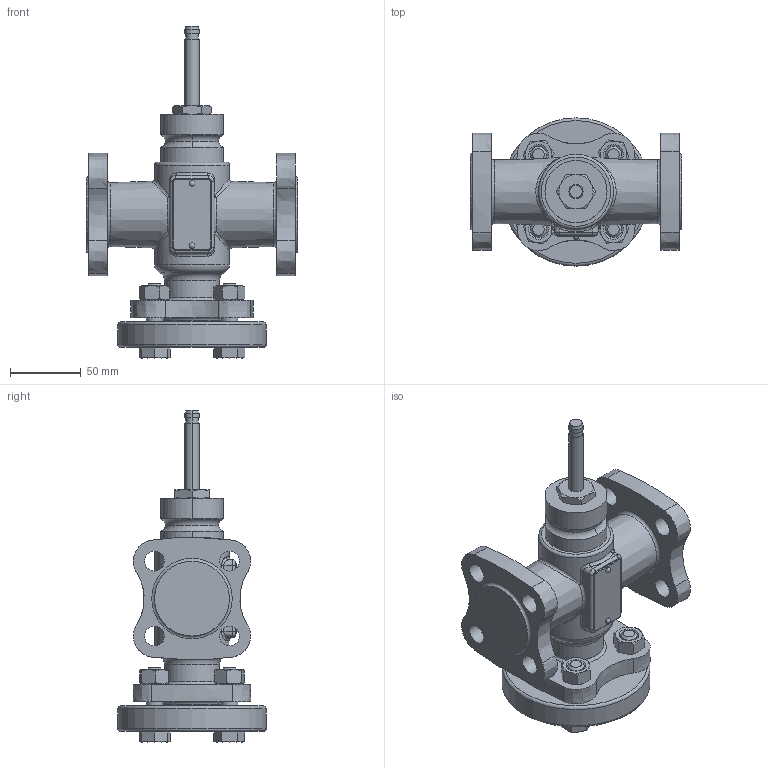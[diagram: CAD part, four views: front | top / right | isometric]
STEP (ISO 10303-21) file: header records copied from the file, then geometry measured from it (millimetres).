
FILE_DESCRIPTION(/* description */ ('Step214'),/* implementation_level */ '2;1');
FILE_NAME(/* name */ 'VVF32_42 DN20.stp',/* time_stamp */ '2015-11-10T13:02:22+01:00',/* author */ (''),/* organization */ ('Siemens'),/* preprocessor_version */ 'ST-DEVELOPER v15',/* originating_system */ 'SIEMENS PLM Software NX 8.5',/* authorisation */ 'for Duktil only');
FILE_SCHEMA (('AUTOMOTIVE_DESIGN { 1 0 10303 214 3 1 1 1 }'));
Length unit declared in the file: millimetre
Products named in the file (1): Volc19F47525lf9t
Bounding box: 150 x 105 x 235 mm (x, y, z)
Volume: 805840.8 mm3; surface area: 115735.2 mm2
Topology: 1 solids, 1 shells, 320 faces, 751 edges, 464 vertices
Faces by surface type: plane 104, cone 92, cylinder 58, torus 25, extrusion 24, bspline 11, sphere 6
Full cylindrical faces by diameter (mm): 11.701 x8, 14 x16, 16.6 x4, 39 x1, 53 x1, 58 x1, 105 x1
Entity records: 11781 total; most frequent: CARTESIAN_POINT 4005, ORIENTED_EDGE 1304, DIRECTION 1286, EDGE_CURVE 652, AXIS2_PLACEMENT_3D 552, EDGE_LOOP 436, VERTEX_POINT 426, ADVANCED_FACE 320
